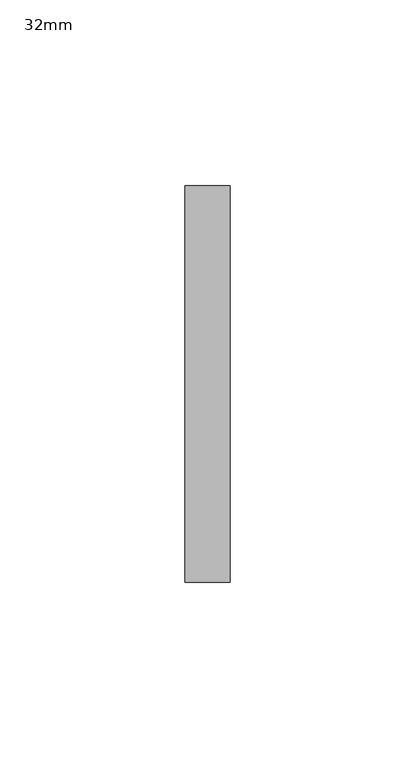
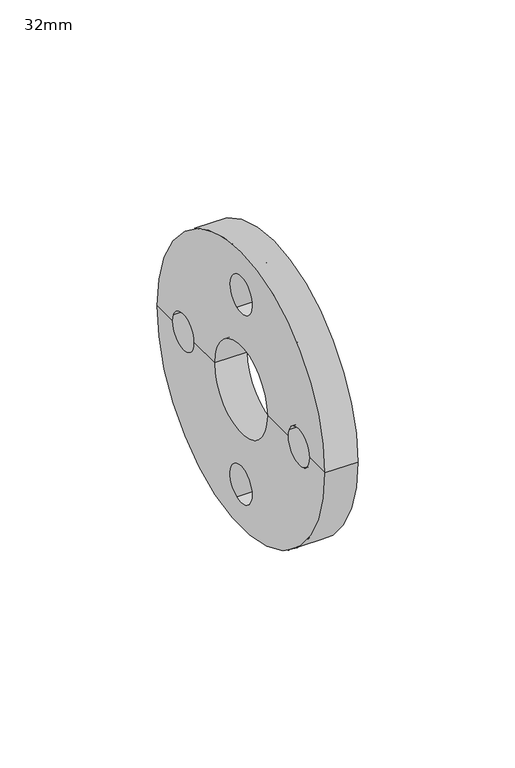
"""IFC4 building model written with IfcOpenShell, lengths in millimetres: pipe fitting geometry, Durapipe_PipeFitting_PVC_BackingFlange : 32mm."""

from ifc_helpers import new_model, si_unit, frame, origin, place, context, project, spatial, polyline, circle_curve, source, transform, mapped, element, save
from ifc_brep_helpers import plane_surface, cylinder_surface, revolved_surface, advanced_brep


def pipe_fitting_32mm_25229a6d(model_context):
    return source(origin(), model_context, "Body", "AdvancedBrep", [
        advanced_brep(
        [(-6.0, 53.5, 0.0), (6.0, 53.5, 0.0), (6.0, -53.5, 0.0), (-6.0, -53.5, 0.0), (-6.0, -43.7999841, 0.0), (-6.0, -43.2661591, -2.6948485), (-6.0, -29.8000108, 0.0), (-6.0, -17.0, 0.0), (-6.0, 17.0, 0.0), (-6.0, 29.8000108, 0.0), (-6.0, 30.3338358, -2.6675216), (-6.0, 43.7999841, 0.0), (-6.0, 2.6948485, -43.2661591), (-6.0, -2.6675216, -30.3338358), (-6.0, 43.2661591, 2.6948485), (-6.0, -30.3338358, 2.6675216), (-6.0, -2.6948485, 43.2661591), (-6.0, 2.6675216, 30.3338358), (6.0, 17.0, 0.0), (6.0, -17.0, 0.0), (6.0, -29.8000108, 0.0), (6.0, -43.2661591, -2.6948485), (6.0, -43.7999841, 0.0), (6.0, 43.7999841, 0.0), (6.0, 30.3338358, -2.6675216), (6.0, 29.8000108, 0.0), (6.0, -2.6675216, -30.3338358), (6.0, 2.6948485, -43.2661591), (6.0, 43.2661591, 2.6948485), (6.0, -30.3338358, 2.6675216), (6.0, 2.6675216, 30.3338358), (6.0, -2.6948485, 43.2661591)],
        [
            (0, 1),
            (1, 2, circle_curve(frame((6.0, 0.0, 0.0), z_axis=(-1.0, 0.0, 0.0), x_axis=(0.0, 1.0, 0.0)), 53.5)),
            (2, 3),
            (3, 0, circle_curve(frame((-6.0, 0.0, 0.0), z_axis=(1.0, 0.0, 0.0), x_axis=(0.0, 1.0, 0.0)), 53.5)),
            (0, 3, circle_curve(frame((-6.0, 0.0, 0.0), z_axis=(1.0, 0.0, 0.0), x_axis=(0.0, 1.0, 0.0)), 53.5)),
            (2, 1, circle_curve(frame((6.0, 0.0, 0.0), z_axis=(-1.0, 0.0, 0.0), x_axis=(0.0, 1.0, 0.0)), 53.5)),
            (3, 4),
            (4, 5, circle_curve(frame((-6.0, -36.7999975, -0.0136634), z_axis=(1.0, 0.0, 0.0), x_axis=(0.0, -0.9237373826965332, -0.38302643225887)), 7.0)),
            (5, 6, circle_curve(frame((-6.0, -36.7999975, -0.0136634), z_axis=(1.0, 0.0, 0.0), x_axis=(0.0, -0.9237373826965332, -0.38302643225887)), 7.0)),
            (6, 7),
            (7, 8, circle_curve(frame((-6.0, 0.0, 0.0), z_axis=(1.0, 0.0, 0.0), x_axis=(0.0, 1.0, 0.0)), 17.0)),
            (8, 9),
            (9, 10, circle_curve(frame((-6.0, 36.7999975, 0.0136634), z_axis=(1.0, 0.0, 0.0), x_axis=(0.0, 0.92373738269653, 0.3830264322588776)), 7.0)),
            (10, 11, circle_curve(frame((-6.0, 36.7999975, 0.0136634), z_axis=(1.0, 0.0, 0.0), x_axis=(0.0, 0.92373738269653, 0.3830264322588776)), 7.0)),
            (11, 0),
            (12, 13, circle_curve(frame((-6.0, 0.0136634, -36.7999975), z_axis=(1.0, 0.0, 0.0), x_axis=(0.0, 0.3830264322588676, -0.9237373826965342)), 7.0)),
            (13, 12, circle_curve(frame((-6.0, 0.0136634, -36.7999975), z_axis=(1.0, 0.0, 0.0), x_axis=(0.0, 0.3830264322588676, -0.9237373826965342)), 7.0)),
            (11, 14, circle_curve(frame((-6.0, 36.7999975, 0.0136634), z_axis=(1.0, 0.0, 0.0), x_axis=(0.0, 0.92373738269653, 0.3830264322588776)), 7.0)),
            (14, 9, circle_curve(frame((-6.0, 36.7999975, 0.0136634), z_axis=(1.0, 0.0, 0.0), x_axis=(0.0, 0.92373738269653, 0.3830264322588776)), 7.0)),
            (8, 7, circle_curve(frame((-6.0, 0.0, 0.0), z_axis=(1.0, 0.0, 0.0), x_axis=(0.0, 1.0, 0.0)), 17.0)),
            (6, 15, circle_curve(frame((-6.0, -36.7999975, -0.0136634), z_axis=(1.0, 0.0, 0.0), x_axis=(0.0, -0.9237373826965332, -0.38302643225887)), 7.0)),
            (15, 4, circle_curve(frame((-6.0, -36.7999975, -0.0136634), z_axis=(1.0, 0.0, 0.0), x_axis=(0.0, -0.9237373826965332, -0.38302643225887)), 7.0)),
            (16, 17, circle_curve(frame((-6.0, -0.0136634, 36.7999975), z_axis=(1.0, 0.0, 0.0), x_axis=(0.0, -0.3830264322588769, 0.9237373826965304)), 7.0)),
            (17, 16, circle_curve(frame((-6.0, -0.0136634, 36.7999975), z_axis=(1.0, 0.0, 0.0), x_axis=(0.0, -0.3830264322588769, 0.9237373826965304)), 7.0)),
            (18, 8),
            (7, 19),
            (19, 18, circle_curve(frame((6.0, 0.0, 0.0), z_axis=(1.0, 0.0, 0.0), x_axis=(0.0, 1.0, 0.0)), 17.0)),
            (18, 19, circle_curve(frame((6.0, 0.0, 0.0), z_axis=(1.0, 0.0, 0.0), x_axis=(0.0, 1.0, 0.0)), 17.0)),
            (19, 20),
            (20, 21, circle_curve(frame((6.0, -36.7999975, -0.0136634), z_axis=(-1.0, 0.0, 0.0), x_axis=(0.0, -0.9237373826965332, -0.38302643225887)), 7.0)),
            (21, 22, circle_curve(frame((6.0, -36.7999975, -0.0136634), z_axis=(-1.0, 0.0, 0.0), x_axis=(0.0, -0.9237373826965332, -0.38302643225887)), 7.0)),
            (22, 2),
            (1, 23),
            (23, 24, circle_curve(frame((6.0, 36.7999975, 0.0136634), z_axis=(-1.0, 0.0, 0.0), x_axis=(0.0, 0.92373738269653, 0.3830264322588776)), 7.0)),
            (24, 25, circle_curve(frame((6.0, 36.7999975, 0.0136634), z_axis=(-1.0, 0.0, 0.0), x_axis=(0.0, 0.92373738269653, 0.3830264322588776)), 7.0)),
            (25, 18),
            (26, 27, circle_curve(frame((6.0, 0.0136634, -36.7999975), z_axis=(-1.0, 0.0, 0.0), x_axis=(0.0, 0.3830264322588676, -0.9237373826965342)), 7.0)),
            (27, 26, circle_curve(frame((6.0, 0.0136634, -36.7999975), z_axis=(-1.0, 0.0, 0.0), x_axis=(0.0, 0.3830264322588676, -0.9237373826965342)), 7.0)),
            (25, 28, circle_curve(frame((6.0, 36.7999975, 0.0136634), z_axis=(-1.0, 0.0, 0.0), x_axis=(0.0, 0.92373738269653, 0.3830264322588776)), 7.0)),
            (28, 23, circle_curve(frame((6.0, 36.7999975, 0.0136634), z_axis=(-1.0, 0.0, 0.0), x_axis=(0.0, 0.92373738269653, 0.3830264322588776)), 7.0)),
            (22, 29, circle_curve(frame((6.0, -36.7999975, -0.0136634), z_axis=(-1.0, 0.0, 0.0), x_axis=(0.0, -0.9237373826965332, -0.38302643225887)), 7.0)),
            (29, 20, circle_curve(frame((6.0, -36.7999975, -0.0136634), z_axis=(-1.0, 0.0, 0.0), x_axis=(0.0, -0.9237373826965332, -0.38302643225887)), 7.0)),
            (30, 31, circle_curve(frame((6.0, -0.0136634, 36.7999975), z_axis=(-1.0, 0.0, 0.0), x_axis=(0.0, -0.3830264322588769, 0.9237373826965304)), 7.0)),
            (31, 30, circle_curve(frame((6.0, -0.0136634, 36.7999975), z_axis=(-1.0, 0.0, 0.0), x_axis=(0.0, -0.3830264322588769, 0.9237373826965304)), 7.0)),
            (26, 13),
            (12, 27),
            (24, 10),
            (14, 28),
            (30, 17),
            (16, 31),
            (29, 15),
            (5, 21),
        ],
        [
            cylinder_surface(frame((-24.7738734, 0.0, 0.0), z_axis=(-1.0, 0.0, 0.0), x_axis=(0.0, 1.0, 0.0)), 53.5),
            plane_surface(frame((-6.0, 0.0, 0.0), z_axis=(-1.0, 0.0, 0.0), x_axis=(0.0, 1.0, 0.0))),
            revolved_surface(polyline([(-6.0, 17.0, 0.0), (6.0, 17.0, 0.0)]), (-24.7738734, 0.0, 0.0), (-1.0, 0.0, 0.0)),
            plane_surface(frame((6.0, 0.0, 0.0), z_axis=(1.0, 0.0, 0.0), x_axis=(0.0, 1.0, 0.0))),
            revolved_surface(polyline([(-6.000000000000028, 2.6948484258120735, -43.26615917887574), (5.999999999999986, 2.6948484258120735, -43.26615917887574)]), (44.0, 0.0136634, -36.7999975), (-1.0000000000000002, 0.0, 0.0)),
            revolved_surface(polyline([(-6.0, 43.26615917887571, 2.6948484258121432), (6.0, 43.26615917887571, 2.6948484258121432)]), (44.0, 36.7999975, 0.0136634), (-1.0, 0.0, 0.0)),
            revolved_surface(polyline([(-6.000000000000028, -2.6948484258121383, 43.26615917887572), (5.999999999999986, -2.6948484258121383, 43.26615917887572)]), (44.0, -0.0136634, 36.7999975), (-1.0000000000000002, 0.0, 0.0)),
            revolved_surface(polyline([(-6.0, -43.26615917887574, -2.69484842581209), (6.0, -43.26615917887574, -2.69484842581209)]), (44.0, -36.7999975, -0.0136634), (-1.0, 0.0, 0.0)),
        ],
        [
            (0, [[1, 2, 3, 4]]),
            (0, [[-1, 5, -3, 6]]),
            (1, [[-4, 7, 8, 9, 10, 11, 12, 13, 14, 15], [16, 17]]),
            (1, [[-5, -15, 18, 19, -12, 20, -10, 21, 22, -7], [23, 24]]),
            (2, [[25, -11, 26, 27]]),
            (2, [[-25, 28, -26, -20]]),
            (3, [[-27, 29, 30, 31, 32, -2, 33, 34, 35, 36], [37, 38]]),
            (3, [[-28, -36, 39, 40, -33, -6, -32, 41, 42, -29], [43, 44]]),
            (4, [[45, -16, 46, -37]]),
            (4, [[-45, -38, -46, -17]]),
            (5, [[47, -13, -19, 48, -39, -35]]),
            (5, [[-47, -34, -40, -48, -18, -14]]),
            (6, [[49, -23, 50, -43]]),
            (6, [[-49, -44, -50, -24]]),
            (7, [[51, -21, -9, 52, -30, -42]]),
            (7, [[-51, -41, -31, -52, -8, -22]]),
        ],
    ),
    ])


if __name__ == "__main__":
    model = new_model("IFC4")
    model_context = context("Model", 3, world=origin())
    ifc_project = project(units=[si_unit("LENGTHUNIT", "METRE", prefix="MILLI")], contexts=[model_context])
    site = spatial("IfcSite", under=ifc_project)
    building = spatial("IfcBuilding", under=site)
    placement = place(None, origin())
    pipe_fitting_32mm_shape = pipe_fitting_32mm_25229a6d(model_context)
    element("IfcPipeFitting", 1, ObjectType="Durapipe_PipeFitting_PVC_BackingFlange : 32mm", at=placement, inside=building, context=model_context, shape_type="MappedRepresentation", body=[
        mapped(pipe_fitting_32mm_shape, transform((0.0, 0.0, 0.0), x_axis=(1.0, 0.0, 0.0), y_axis=(0.0, 1.0, 0.0), z_axis=(0.0, 0.0, 1.0))),
    ])
    save(model, "model.ifc")
